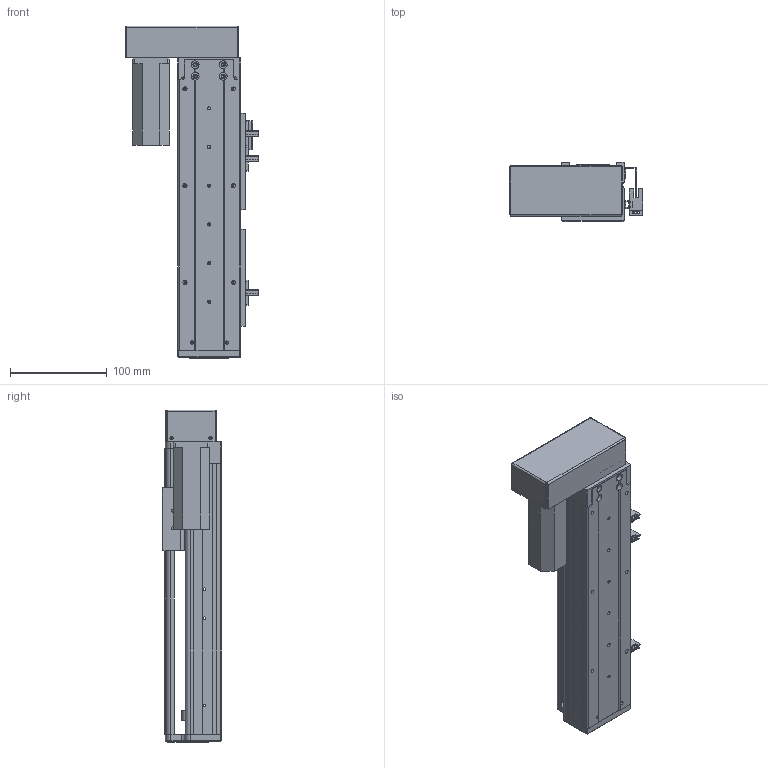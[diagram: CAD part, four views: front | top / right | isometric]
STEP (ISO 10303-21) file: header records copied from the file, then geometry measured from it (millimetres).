
FILE_DESCRIPTION (( 'STEP AP203' ), '1' );
FILE_NAME ('RY60-L1210-300-LK.SLDASM_150.step', '2021-02-20T06:53:47', ( '盈信电脑' ), ( '东莞市道滘镇水果街19号' ), 'SwSTEP 2.0', 'SolidWorks 2012', '' );
FILE_SCHEMA (( 'CONFIG_CONTROL_DESIGN' ));
Length unit declared in the file: millimetre
Products named in the file (14): RY60-L1210-300-LK.SLDASM_150; RY60酘衵殏萇儂欶; 侂狟100W; RY60左右折电机安装板-PCD46-M4; RY60转折电机端支撑座; 覜茼ん672; RY60綴裔啣; RY80俋离覜茼え; 滅袉蝶18-10; RY60-300倰第裔啣-LK_150; 672嫖萇羲壽假蚾釱; RY60臏賑輸; RY60-300-MGW12絳寢-LK_150; RY60-300倰第菁釱-LK_150
Assembly tree (19 placements, depth 2):
  RY60-L1210-300-LK.SLDASM_150
    RY60-300倰第菁釱-LK_150
    RY60-300-MGW12絳寢-LK_150
    RY60臏賑輸
    RY60-300倰第裔啣-LK_150
    672嫖萇羲壽假蚾釱  x2
    RY60綴裔啣
    覜茼ん672  x3
    RY80俋离覜茼え
    滅袉蝶18-10  x4
    RY60转折电机端支撑座
    RY60左右折电机安装板-PCD46-M4
    侂狟100W
    RY60酘衵殏萇儂欶
Bounding box: 137.9 x 61 x 343 mm (x, y, z)
Volume: 632969.8 mm3; surface area: 299140.7 mm2
Topology: 19 solids, 19 shells, 1393 faces, 3839 edges, 2462 vertices
Faces by surface type: plane 701, cylinder 575, cone 100, bspline 17
Entity records: 40535 total; most frequent: CARTESIAN_POINT 9076, ORIENTED_EDGE 6262, DIRECTION 6163, EDGE_CURVE 3131, AXIS2_PLACEMENT_3D 2119, VERTEX_POINT 2042, LINE 1925, VECTOR 1925
